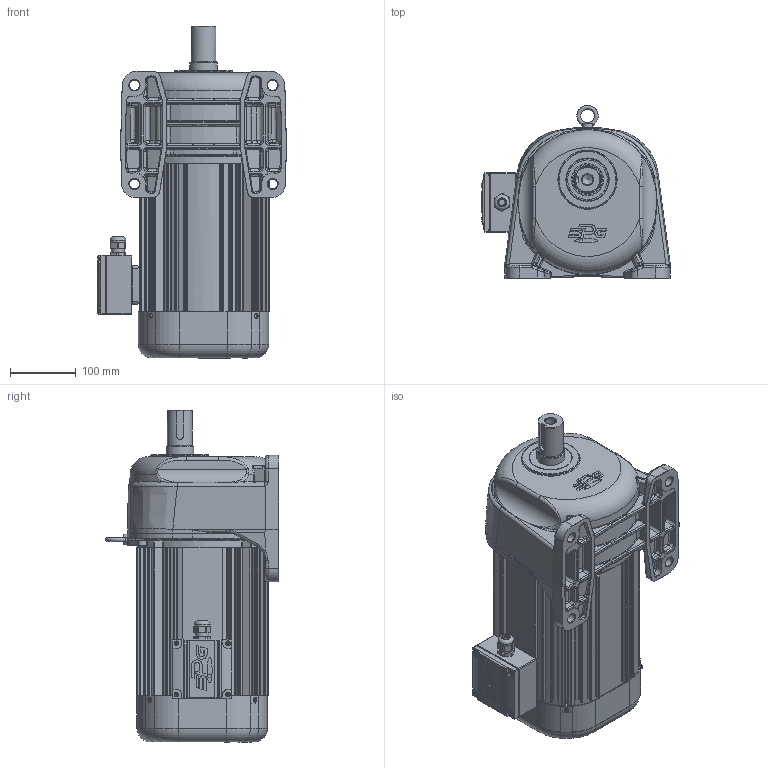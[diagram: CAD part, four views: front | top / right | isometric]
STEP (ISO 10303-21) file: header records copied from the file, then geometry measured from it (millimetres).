
FILE_DESCRIPTION(/* description */ (''),/* implementation_level */ '2;1');
FILE_NAME(/* name */ 'Z:\동력 3D 파일\PAL40-(5~30)-PA(B)220[ ]L_(3D).stp',/* time_stamp */ '2021-10-19T08:41:32+09:00',/* author */ ('jaebok'),/* organization */ (''),/* preprocessor_version */ 'ST-DEVELOPER v18.1',/* originating_system */ 'Autodesk Inventor 2022',/* authorisation */ '');
FILE_SCHEMA (('AUTOMOTIVE_DESIGN { 1 0 10303 214 3 1 1 }'));
Length unit declared in the file: millimetre
Products named in the file (1): 부품3
Bounding box: 287 x 263.22 x 504.5 mm (x, y, z)
Volume: 4303989 mm3; surface area: 1229186.9 mm2
Topology: 1 solids, 32 shells, 3947 faces, 9804 edges, 5814 vertices
Faces by surface type: plane 1111, cylinder 1082, bspline 1076, torus 366, cone 224, sphere 88
Full cylindrical faces by diameter (mm): 2 x1, 3.25 x1, 3.5 x4, 3.6 x4, 4 x21, 5 x13, 6 x5, 6.647 x5, 6.8 x4, 7 x9, 8 x9, 8.8 x4, 9 x4, 10 x1, 12 x4, 12.5 x1, 13 x4, 15 x5, 16 x1, 20 x2, 20.6 x1, 21 x1, 23.5 x1, 23.6 x1, 25 x1, 28 x1, 31 x1, 36 x1, 38 x1, 39.6 x1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
Entity records: 157231 total; most frequent: CARTESIAN_POINT 66065, ORIENTED_EDGE 19220, DIRECTION 17015, EDGE_CURVE 9610, AXIS2_PLACEMENT_3D 6935, VERTEX_POINT 5813, EDGE_LOOP 4174, FACE_OUTER_BOUND 3947
